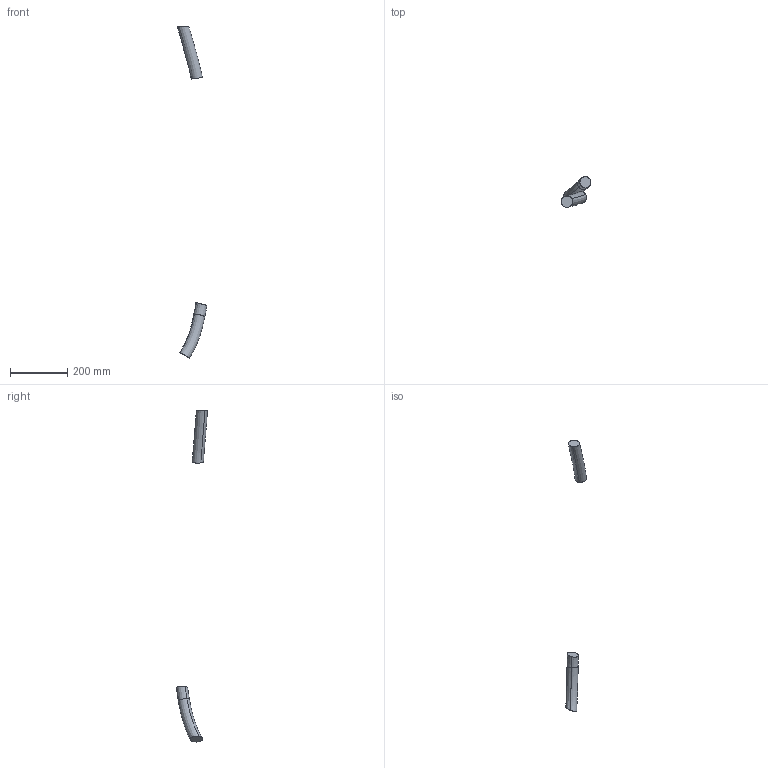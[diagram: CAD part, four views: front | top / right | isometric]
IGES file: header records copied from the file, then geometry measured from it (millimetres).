
Start section: SolidWorks IGES file using analytic representation for surfaces
Global section: file name: C:\DATA\SAP_DOC\LW\IRB 6720\IRB6720-LID-MH_215kg-265_OC_01_SW_J\export\IRB6720-LID-MH_215kg-265_OC_01_IGES_J\IRB6720-LID-MH_215kg-265_OC_00_LINK02_CABLE.igs; native system: SolidWorks 2024; preprocessor: SolidWorks 2024; author: SEJOVAS3; date: 260526.094027; units: millimetre
Bounding box: 104.37 x 109.24 x 1164.51 mm (x, y, z)
Surface area: 53396.2 mm2 (no closed solid volume)
Topology: 0 solids, 0 shells, 10 faces, 397 edges, 397 vertices
Faces by surface type: bspline 10
